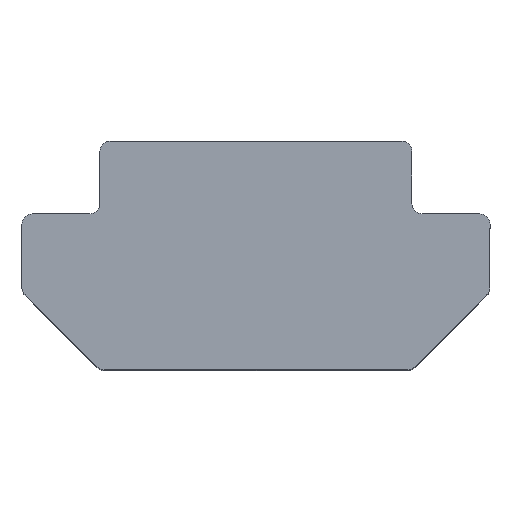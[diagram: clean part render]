
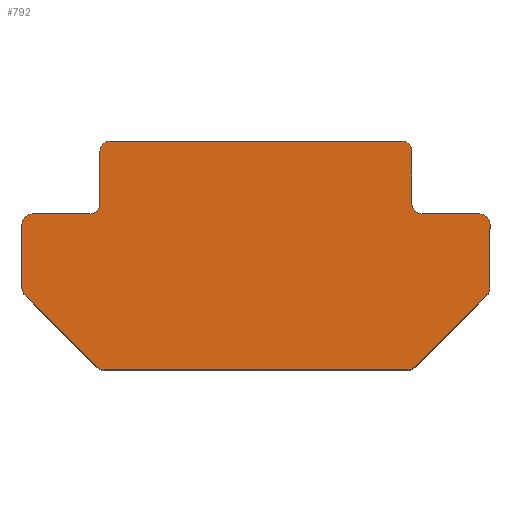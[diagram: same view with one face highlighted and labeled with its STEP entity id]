
A CAD part, top view. The second image highlights one B-rep face of the part: STEP entity #792.
In plain terms, the highlighted planar face has unit normal (0, 0, 1).
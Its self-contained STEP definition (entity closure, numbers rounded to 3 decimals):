
#35=PLANE('',#860);
#65=FACE_OUTER_BOUND('',#107,.T.);
#107=EDGE_LOOP('',(#656,#657,#658,#659,#660,#661,#662,#663,#664,#665,#666,
#667,#668,#669,#670,#671,#672,#673,#674,#675));
#135=CIRCLE('',#861,0.2);
#136=CIRCLE('',#862,0.2);
#137=CIRCLE('',#863,0.2);
#138=CIRCLE('',#864,0.2);
#139=CIRCLE('',#865,0.2);
#140=CIRCLE('',#866,0.2);
#141=CIRCLE('',#867,0.2);
#142=CIRCLE('',#868,0.2);
#143=CIRCLE('',#869,0.2);
#144=CIRCLE('',#870,0.2);
#205=LINE('',#2173,#262);
#209=LINE('',#2180,#266);
#210=LINE('',#2184,#267);
#214=LINE('',#2193,#271);
#220=LINE('',#2206,#277);
#224=LINE('',#2215,#281);
#228=LINE('',#2222,#285);
#231=LINE('',#2230,#288);
#235=LINE('',#2239,#292);
#239=LINE('',#2248,#296);
#262=VECTOR('',#981,1000.);
#266=VECTOR('',#987,1000.);
#267=VECTOR('',#990,1000.);
#271=VECTOR('',#996,1000.);
#277=VECTOR('',#1004,1000.);
#281=VECTOR('',#1010,1000.);
#285=VECTOR('',#1016,1000.);
#288=VECTOR('',#1021,1000.);
#292=VECTOR('',#1027,1000.);
#296=VECTOR('',#1033,1000.);
#344=VERTEX_POINT('',#2170);
#345=VERTEX_POINT('',#2172);
#346=VERTEX_POINT('',#2176);
#347=VERTEX_POINT('',#2178);
#348=VERTEX_POINT('',#2182);
#349=VERTEX_POINT('',#2183);
#352=VERTEX_POINT('',#2191);
#353=VERTEX_POINT('',#2192);
#358=VERTEX_POINT('',#2203);
#359=VERTEX_POINT('',#2205);
#362=VERTEX_POINT('',#2212);
#363=VERTEX_POINT('',#2214);
#364=VERTEX_POINT('',#2218);
#365=VERTEX_POINT('',#2220);
#368=VERTEX_POINT('',#2227);
#369=VERTEX_POINT('',#2229);
#372=VERTEX_POINT('',#2236);
#373=VERTEX_POINT('',#2238);
#376=VERTEX_POINT('',#2245);
#377=VERTEX_POINT('',#2247);
#444=EDGE_CURVE('',#345,#344,#205,.T.);
#448=EDGE_CURVE('',#346,#347,#209,.T.);
#449=EDGE_CURVE('',#348,#349,#210,.T.);
#453=EDGE_CURVE('',#352,#353,#214,.T.);
#459=EDGE_CURVE('',#359,#358,#220,.T.);
#463=EDGE_CURVE('',#363,#362,#224,.T.);
#467=EDGE_CURVE('',#364,#365,#228,.T.);
#470=EDGE_CURVE('',#369,#368,#231,.T.);
#474=EDGE_CURVE('',#373,#372,#235,.T.);
#478=EDGE_CURVE('',#377,#376,#239,.T.);
#480=EDGE_CURVE('',#344,#346,#135,.T.);
#481=EDGE_CURVE('',#347,#348,#136,.T.);
#482=EDGE_CURVE('',#349,#352,#137,.T.);
#483=EDGE_CURVE('',#353,#359,#138,.T.);
#484=EDGE_CURVE('',#358,#363,#139,.T.);
#485=EDGE_CURVE('',#362,#364,#140,.T.);
#486=EDGE_CURVE('',#365,#369,#141,.T.);
#487=EDGE_CURVE('',#368,#373,#142,.T.);
#488=EDGE_CURVE('',#372,#377,#143,.T.);
#489=EDGE_CURVE('',#376,#345,#144,.T.);
#656=ORIENTED_EDGE('',*,*,#444,.T.);
#657=ORIENTED_EDGE('',*,*,#480,.T.);
#658=ORIENTED_EDGE('',*,*,#448,.T.);
#659=ORIENTED_EDGE('',*,*,#481,.T.);
#660=ORIENTED_EDGE('',*,*,#449,.T.);
#661=ORIENTED_EDGE('',*,*,#482,.T.);
#662=ORIENTED_EDGE('',*,*,#453,.T.);
#663=ORIENTED_EDGE('',*,*,#483,.T.);
#664=ORIENTED_EDGE('',*,*,#459,.T.);
#665=ORIENTED_EDGE('',*,*,#484,.T.);
#666=ORIENTED_EDGE('',*,*,#463,.T.);
#667=ORIENTED_EDGE('',*,*,#485,.T.);
#668=ORIENTED_EDGE('',*,*,#467,.T.);
#669=ORIENTED_EDGE('',*,*,#486,.T.);
#670=ORIENTED_EDGE('',*,*,#470,.T.);
#671=ORIENTED_EDGE('',*,*,#487,.T.);
#672=ORIENTED_EDGE('',*,*,#474,.T.);
#673=ORIENTED_EDGE('',*,*,#488,.T.);
#674=ORIENTED_EDGE('',*,*,#478,.T.);
#675=ORIENTED_EDGE('',*,*,#489,.T.);
#792=ADVANCED_FACE('',(#65),#35,.T.);
#860=AXIS2_PLACEMENT_3D('',#2250,#1035,#1036);
#861=AXIS2_PLACEMENT_3D('',#2251,#1037,#1038);
#862=AXIS2_PLACEMENT_3D('',#2252,#1039,#1040);
#863=AXIS2_PLACEMENT_3D('',#2253,#1041,#1042);
#864=AXIS2_PLACEMENT_3D('',#2254,#1043,#1044);
#865=AXIS2_PLACEMENT_3D('',#2255,#1045,#1046);
#866=AXIS2_PLACEMENT_3D('',#2256,#1047,#1048);
#867=AXIS2_PLACEMENT_3D('',#2257,#1049,#1050);
#868=AXIS2_PLACEMENT_3D('',#2258,#1051,#1052);
#869=AXIS2_PLACEMENT_3D('',#2259,#1053,#1054);
#870=AXIS2_PLACEMENT_3D('',#2260,#1055,#1056);
#981=DIRECTION('',(0.707,-0.707,0.));
#987=DIRECTION('',(1.,0.,0.));
#990=DIRECTION('',(0.707,0.707,0.));
#996=DIRECTION('',(0.,1.,0.));
#1004=DIRECTION('',(-1.,0.,0.));
#1010=DIRECTION('',(0.,1.,0.));
#1016=DIRECTION('',(-1.,0.,0.));
#1021=DIRECTION('',(0.,-1.,0.));
#1027=DIRECTION('',(-1.,0.,0.));
#1033=DIRECTION('',(0.,-1.,0.));
#1035=DIRECTION('center_axis',(0.,0.,1.));
#1036=DIRECTION('ref_axis',(1.,0.,0.));
#1037=DIRECTION('center_axis',(0.,0.,1.));
#1038=DIRECTION('ref_axis',(1.,0.,0.));
#1039=DIRECTION('center_axis',(0.,0.,1.));
#1040=DIRECTION('ref_axis',(1.,0.,0.));
#1041=DIRECTION('center_axis',(0.,0.,1.));
#1042=DIRECTION('ref_axis',(1.,0.,0.));
#1043=DIRECTION('center_axis',(0.,0.,1.));
#1044=DIRECTION('ref_axis',(1.,0.,0.));
#1045=DIRECTION('center_axis',(0.,0.,-1.));
#1046=DIRECTION('ref_axis',(1.,0.,0.));
#1047=DIRECTION('center_axis',(0.,0.,1.));
#1048=DIRECTION('ref_axis',(1.,0.,0.));
#1049=DIRECTION('center_axis',(0.,0.,1.));
#1050=DIRECTION('ref_axis',(1.,0.,0.));
#1051=DIRECTION('center_axis',(0.,0.,-1.));
#1052=DIRECTION('ref_axis',(1.,0.,0.));
#1053=DIRECTION('center_axis',(0.,0.,1.));
#1054=DIRECTION('ref_axis',(1.,0.,0.));
#1055=DIRECTION('center_axis',(0.,0.,1.));
#1056=DIRECTION('ref_axis',(1.,0.,0.));
#2170=CARTESIAN_POINT('',(-3.059,0.059,5.));
#2172=CARTESIAN_POINT('',(-4.441,1.441,5.));
#2173=CARTESIAN_POINT('',(-4.5,1.5,5.));
#2176=CARTESIAN_POINT('',(-2.917,0.,5.));
#2178=CARTESIAN_POINT('',(2.917,0.,5.));
#2180=CARTESIAN_POINT('',(-3.,0.,5.));
#2182=CARTESIAN_POINT('',(3.059,0.059,5.));
#2183=CARTESIAN_POINT('',(4.441,1.441,5.));
#2184=CARTESIAN_POINT('',(3.,0.,5.));
#2191=CARTESIAN_POINT('',(4.5,1.583,5.));
#2192=CARTESIAN_POINT('',(4.5,2.8,5.));
#2193=CARTESIAN_POINT('',(4.5,1.5,5.));
#2203=CARTESIAN_POINT('',(3.2,3.,5.));
#2205=CARTESIAN_POINT('',(4.3,3.,5.));
#2206=CARTESIAN_POINT('',(4.5,3.,5.));
#2212=CARTESIAN_POINT('',(3.,4.2,5.));
#2214=CARTESIAN_POINT('',(3.,3.2,5.));
#2215=CARTESIAN_POINT('',(3.,3.,5.));
#2218=CARTESIAN_POINT('',(2.8,4.4,5.));
#2220=CARTESIAN_POINT('',(-2.8,4.4,5.));
#2222=CARTESIAN_POINT('',(3.,4.4,5.));
#2227=CARTESIAN_POINT('',(-3.,3.2,5.));
#2229=CARTESIAN_POINT('',(-3.,4.2,5.));
#2230=CARTESIAN_POINT('',(-3.,4.4,5.));
#2236=CARTESIAN_POINT('',(-4.3,3.,5.));
#2238=CARTESIAN_POINT('',(-3.2,3.,5.));
#2239=CARTESIAN_POINT('',(-3.,3.,5.));
#2245=CARTESIAN_POINT('',(-4.5,1.583,5.));
#2247=CARTESIAN_POINT('',(-4.5,2.8,5.));
#2248=CARTESIAN_POINT('',(-4.5,3.,5.));
#2250=CARTESIAN_POINT('Origin',(0.,0.,5.));
#2251=CARTESIAN_POINT('Origin',(-2.917,0.2,5.));
#2252=CARTESIAN_POINT('Origin',(2.917,0.2,5.));
#2253=CARTESIAN_POINT('Origin',(4.3,1.583,5.));
#2254=CARTESIAN_POINT('Origin',(4.3,2.8,5.));
#2255=CARTESIAN_POINT('Origin',(3.2,3.2,5.));
#2256=CARTESIAN_POINT('Origin',(2.8,4.2,5.));
#2257=CARTESIAN_POINT('Origin',(-2.8,4.2,5.));
#2258=CARTESIAN_POINT('Origin',(-3.2,3.2,5.));
#2259=CARTESIAN_POINT('Origin',(-4.3,2.8,5.));
#2260=CARTESIAN_POINT('Origin',(-4.3,1.583,5.));
